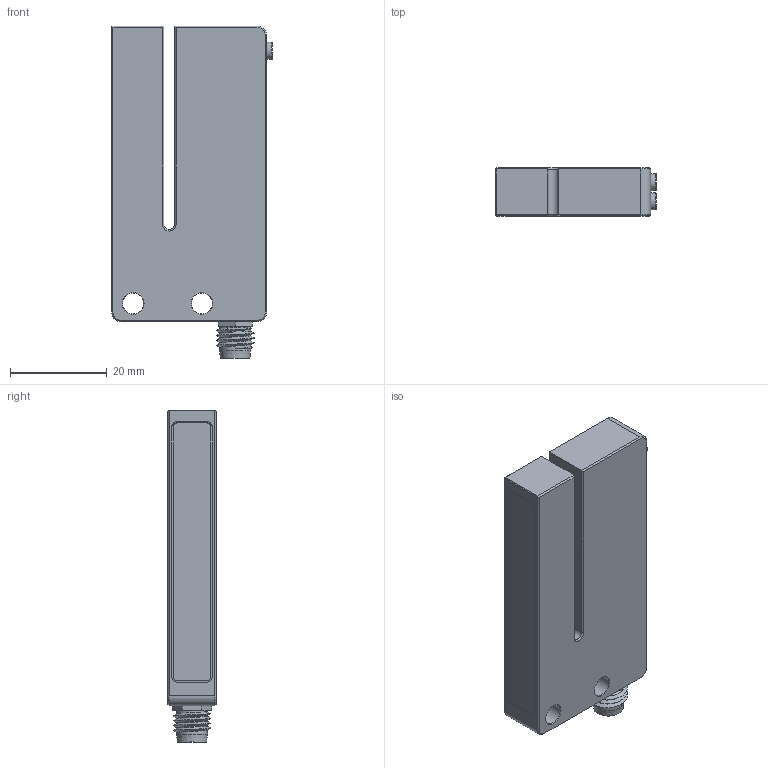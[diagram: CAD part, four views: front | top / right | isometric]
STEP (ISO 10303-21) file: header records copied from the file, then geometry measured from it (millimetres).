
FILE_DESCRIPTION(/* description */ (''),/* implementation_level */ '2;1');
FILE_NAME(/* name */ 'F:\HUAYIFENG\01)HUAYIFENG_宣传文件\HUAYIFENG_\X2\5BA34F2065874EF6\X0\_销售专用\HUAYIFENG_\X2\5BA34F2065874EF6\X0\_销售资料\04)产品销售资料_\X2\68077B7E7CFB5217\X0\\02)标签系列_3D\LUA_0242.stp',/* time_stamp */ '2017-11-28T21:40:24+08:00',/* author */ ('fengjiarun'),/* organization */ (''),/* preprocessor_version */ 'ST-DEVELOPER v16.5',/* originating_system */ 'Autodesk Inventor 2017',/* authorisation */ '');
FILE_SCHEMA (('AUTOMOTIVE_DESIGN { 1 0 10303 214 3 1 1 }'));
Length unit declared in the file: millimetre
Products named in the file (1): 零件54
Bounding box: 33.2 x 10 x 68.5 mm (x, y, z)
Volume: 17832.7 mm3; surface area: 7786.8 mm2
Topology: 1 solids, 4 shells, 195 faces, 484 edges, 312 vertices
Faces by surface type: plane 89, cylinder 63, cone 20, bspline 13, sphere 8, torus 2
Full cylindrical faces by diameter (mm): 0.6 x4, 0.8 x4, 1 x2, 2.5 x2, 3.5 x2, 4.3 x2, 5.5 x1, 5.75 x2, 6 x2, 6.2 x12, 6.4 x5
Entity records: 10441 total; most frequent: CARTESIAN_POINT 6368, DIRECTION 788, ORIENTED_EDGE 738, EDGE_CURVE 369, AXIS2_PLACEMENT_3D 282, VERTEX_POINT 256, EDGE_LOOP 243, LINE 224
